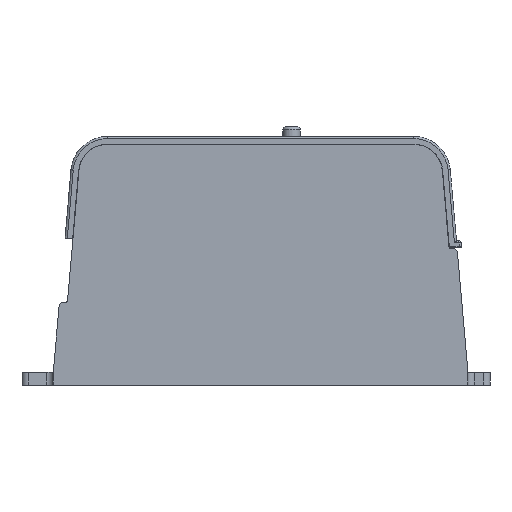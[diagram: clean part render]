
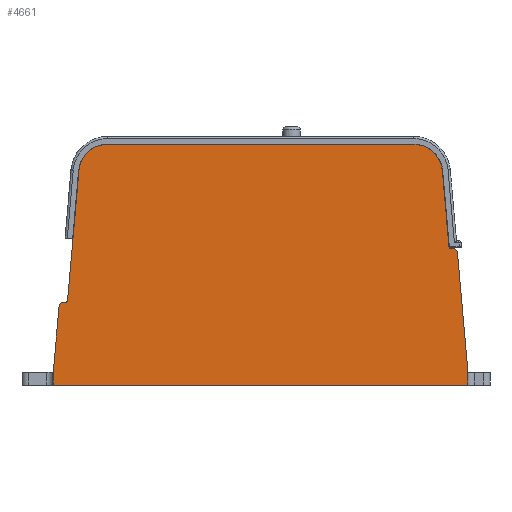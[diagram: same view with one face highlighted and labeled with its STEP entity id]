
A CAD part, front view. The second image highlights one B-rep face of the part: STEP entity #4661.
In plain terms, the highlighted planar face has unit normal (0, -1, 0).
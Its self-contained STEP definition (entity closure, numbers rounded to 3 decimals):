
#365=LINE('',#7470,#809);
#366=LINE('',#7472,#810);
#369=LINE('',#7478,#813);
#371=LINE('',#7482,#815);
#377=LINE('',#7499,#821);
#381=LINE('',#7510,#825);
#384=LINE('',#7517,#828);
#387=LINE('',#7527,#831);
#391=LINE('',#7539,#835);
#416=LINE('',#7599,#860);
#809=VECTOR('',#6081,1000.);
#810=VECTOR('',#6084,1000.);
#813=VECTOR('',#6089,1000.);
#815=VECTOR('',#6093,1000.);
#821=VECTOR('',#6107,1000.);
#825=VECTOR('',#6119,1000.);
#828=VECTOR('',#6124,1000.);
#831=VECTOR('',#6135,1000.);
#835=VECTOR('',#6147,1000.);
#860=VECTOR('',#6206,1000.);
#1085=PLANE('',#5094);
#2005=ORIENTED_EDGE('',*,*,#2859,.T.);
#2006=ORIENTED_EDGE('',*,*,#2855,.T.);
#2007=ORIENTED_EDGE('',*,*,#2853,.T.);
#2008=ORIENTED_EDGE('',*,*,#2849,.T.);
#2009=ORIENTED_EDGE('',*,*,#2845,.T.);
#2010=ORIENTED_EDGE('',*,*,#2902,.T.);
#2011=ORIENTED_EDGE('',*,*,#2904,.F.);
#2012=ORIENTED_EDGE('',*,*,#2905,.T.);
#2013=ORIENTED_EDGE('',*,*,#2862,.T.);
#2014=ORIENTED_EDGE('',*,*,#2864,.T.);
#2015=ORIENTED_EDGE('',*,*,#2867,.T.);
#2016=ORIENTED_EDGE('',*,*,#2870,.T.);
#2017=ORIENTED_EDGE('',*,*,#2873,.F.);
#2018=ORIENTED_EDGE('',*,*,#2843,.F.);
#2019=ORIENTED_EDGE('',*,*,#2840,.F.);
#2020=ORIENTED_EDGE('',*,*,#2839,.F.);
#2839=EDGE_CURVE('',#3379,#3378,#365,.T.);
#2840=EDGE_CURVE('',#3378,#3380,#366,.T.);
#2843=EDGE_CURVE('',#3380,#3382,#369,.T.);
#2845=EDGE_CURVE('',#3383,#3384,#371,.T.);
#2849=EDGE_CURVE('',#3387,#3383,#3657,.T.);
#2853=EDGE_CURVE('',#3390,#3387,#377,.T.);
#2855=EDGE_CURVE('',#3391,#3390,#3659,.F.);
#2859=EDGE_CURVE('',#3379,#3391,#381,.T.);
#2862=EDGE_CURVE('',#3396,#3395,#384,.T.);
#2864=EDGE_CURVE('',#3395,#3397,#3661,.T.);
#2867=EDGE_CURVE('',#3397,#3399,#387,.T.);
#2870=EDGE_CURVE('',#3399,#3401,#3663,.F.);
#2873=EDGE_CURVE('',#3382,#3401,#391,.T.);
#2902=EDGE_CURVE('',#3384,#3420,#3670,.F.);
#2904=EDGE_CURVE('',#3421,#3420,#416,.T.);
#2905=EDGE_CURVE('',#3421,#3396,#3671,.F.);
#3378=VERTEX_POINT('',#7467);
#3379=VERTEX_POINT('',#7469);
#3380=VERTEX_POINT('',#7473);
#3382=VERTEX_POINT('',#7479);
#3383=VERTEX_POINT('',#7483);
#3384=VERTEX_POINT('',#7484);
#3387=VERTEX_POINT('',#7492);
#3390=VERTEX_POINT('',#7500);
#3391=VERTEX_POINT('',#7504);
#3395=VERTEX_POINT('',#7516);
#3396=VERTEX_POINT('',#7518);
#3397=VERTEX_POINT('',#7522);
#3399=VERTEX_POINT('',#7528);
#3401=VERTEX_POINT('',#7534);
#3420=VERTEX_POINT('',#7596);
#3421=VERTEX_POINT('',#7600);
#3657=CIRCLE('',#5062,0.5);
#3659=CIRCLE('',#5066,1.5);
#3661=CIRCLE('',#5071,0.5);
#3663=CIRCLE('',#5075,1.5);
#3670=CIRCLE('',#5093,9.);
#3671=CIRCLE('',#5095,9.);
#3965=EDGE_LOOP('',(#2005,#2006,#2007,#2008,#2009,#2010,#2011,#2012,#2013,
#2014,#2015,#2016,#2017,#2018,#2019,#2020));
#4287=FACE_BOUND('',#3965,.T.);
#4661=ADVANCED_FACE('',(#4287),#1085,.F.);
#5062=AXIS2_PLACEMENT_3D('',#7491,#6099,#6100);
#5066=AXIS2_PLACEMENT_3D('',#7503,#6111,#6112);
#5071=AXIS2_PLACEMENT_3D('',#7521,#6128,#6129);
#5075=AXIS2_PLACEMENT_3D('',#7533,#6140,#6141);
#5093=AXIS2_PLACEMENT_3D('',#7595,#6201,#6202);
#5094=AXIS2_PLACEMENT_3D('',#7598,#6204,#6205);
#5095=AXIS2_PLACEMENT_3D('',#7601,#6207,#6208);
#6081=DIRECTION('',(0.,0.,-1.));
#6084=DIRECTION('',(-1.,0.,0.));
#6089=DIRECTION('',(0.,0.,1.));
#6093=DIRECTION('',(-0.087,0.,0.996));
#6099=DIRECTION('',(0.,1.,0.));
#6100=DIRECTION('',(0.,0.,1.));
#6107=DIRECTION('',(-1.,0.,0.));
#6111=DIRECTION('',(0.,1.,0.));
#6112=DIRECTION('',(0.,0.,1.));
#6119=DIRECTION('',(-0.087,0.,0.996));
#6124=DIRECTION('',(-0.087,0.,-0.996));
#6128=DIRECTION('',(0.,1.,0.));
#6129=DIRECTION('',(0.,0.,1.));
#6135=DIRECTION('',(-1.,0.,0.));
#6140=DIRECTION('',(0.,1.,0.));
#6141=DIRECTION('',(0.,0.,1.));
#6147=DIRECTION('',(0.087,0.,0.996));
#6201=DIRECTION('',(0.,1.,0.));
#6202=DIRECTION('',(0.,0.,1.));
#6204=DIRECTION('',(0.,1.,0.));
#6205=DIRECTION('',(0.,0.,1.));
#6206=DIRECTION('',(1.,0.,0.));
#6207=DIRECTION('',(0.,1.,0.));
#6208=DIRECTION('',(0.,0.,1.));
#7467=CARTESIAN_POINT('',(65.,0.,-37.75));
#7469=CARTESIAN_POINT('',(65.,0.,-33.75));
#7470=CARTESIAN_POINT('',(65.,0.,37.75));
#7472=CARTESIAN_POINT('',(65.,0.,-37.75));
#7473=CARTESIAN_POINT('',(-65.,0.,-37.75));
#7478=CARTESIAN_POINT('',(-65.,0.,-37.75));
#7479=CARTESIAN_POINT('',(-65.,0.,-33.75));
#7482=CARTESIAN_POINT('',(59.085,0.,5.169));
#7483=CARTESIAN_POINT('',(59.056,0.,5.506));
#7484=CARTESIAN_POINT('',(56.954,0.,29.534));
#7491=CARTESIAN_POINT('',(59.554,0.,5.55));
#7492=CARTESIAN_POINT('',(59.554,0.,5.05));
#7499=CARTESIAN_POINT('',(0.,0.,5.05));
#7500=CARTESIAN_POINT('',(60.231,0.,5.05));
#7503=CARTESIAN_POINT('',(60.231,0.,3.55));
#7504=CARTESIAN_POINT('',(61.725,0.,3.681));
#7510=CARTESIAN_POINT('',(61.576,0.,5.387));
#7516=CARTESIAN_POINT('',(-60.526,0.,-11.294));
#7517=CARTESIAN_POINT('',(-59.085,0.,5.169));
#7518=CARTESIAN_POINT('',(-56.954,0.,29.534));
#7521=CARTESIAN_POINT('',(-61.024,0.,-11.25));
#7522=CARTESIAN_POINT('',(-61.024,0.,-11.75));
#7527=CARTESIAN_POINT('',(0.,0.,-11.75));
#7528=CARTESIAN_POINT('',(-61.701,0.,-11.75));
#7533=CARTESIAN_POINT('',(-61.701,0.,-13.25));
#7534=CARTESIAN_POINT('',(-63.195,0.,-13.119));
#7539=CARTESIAN_POINT('',(-61.576,0.,5.387));
#7595=CARTESIAN_POINT('',(47.988,0.,28.75));
#7596=CARTESIAN_POINT('',(47.988,0.,37.75));
#7598=CARTESIAN_POINT('',(0.,0.,0.));
#7599=CARTESIAN_POINT('',(-65.,0.,37.75));
#7600=CARTESIAN_POINT('',(-47.988,0.,37.75));
#7601=CARTESIAN_POINT('',(-47.988,0.,28.75));
